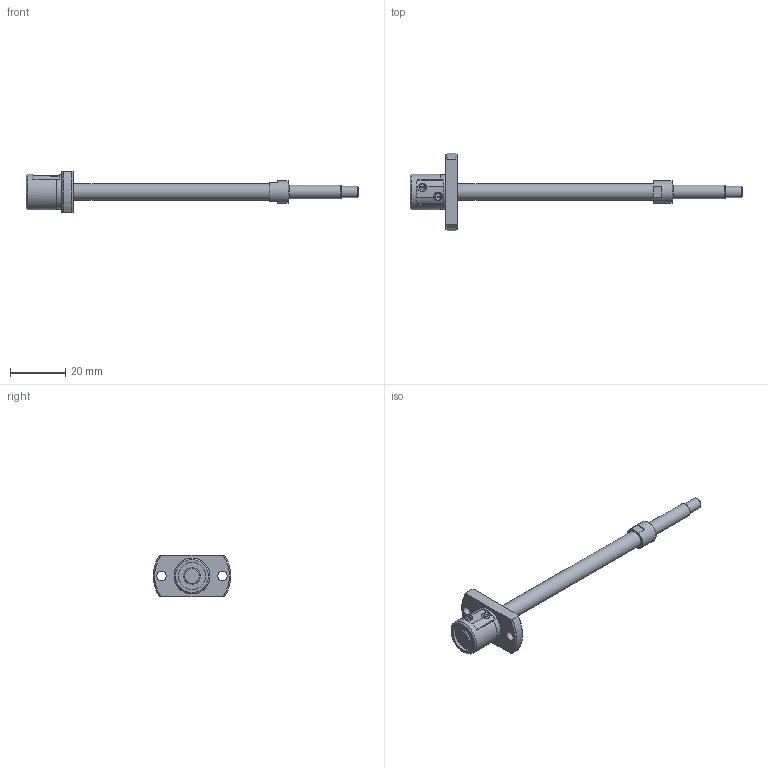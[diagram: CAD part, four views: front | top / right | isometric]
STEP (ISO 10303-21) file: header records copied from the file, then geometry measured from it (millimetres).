
FILE_DESCRIPTION( ( 'STEP AP203' ), '1' );
FILE_NAME( 'e:/temp/worker_93/temp/exporttempdir_4492_1410_RafuS/format_0/SG0601-085R120C3A1X(0).stp', '2021-10-19T00:28:34', ( 'License CC BY-ND 4.0' ), ( 'CADENAS' ), ' ', 'PARTsolutions', ' ' );
FILE_SCHEMA( ( 'CONFIG_CONTROL_DESIGN' ) );
Length unit declared in the file: millimetre
Products named in the file (3): SG0601-085R120C3A1X(0); _SG0601-85R120C3A_shaft; _SG0601_nut
Assembly tree (2 placements, depth 2):
  SG0601-085R120C3A1X(0)
    _SG0601-85R120C3A_shaft
    _SG0601_nut
Bounding box: 120 x 27.91 x 15 mm (x, y, z)
Volume: 5875.6 mm3; surface area: 4283.8 mm2
Topology: 2 solids, 2 shells, 71 faces, 174 edges, 115 vertices
Faces by surface type: plane 34, cylinder 23, cone 13, torus 1
Full cylindrical faces by diameter (mm): 3.4 x2, 4 x1, 5 x1, 6 x2, 8 x1, 10 x2, 12.6 x1, 13 x1
Entity records: 2074 total; most frequent: CARTESIAN_POINT 396, DIRECTION 340, ORIENTED_EDGE 286, EDGE_CURVE 143, AXIS2_PLACEMENT_3D 141, EDGE_LOOP 106, VERTEX_POINT 105, FACE_OUTER_BOUND 83
